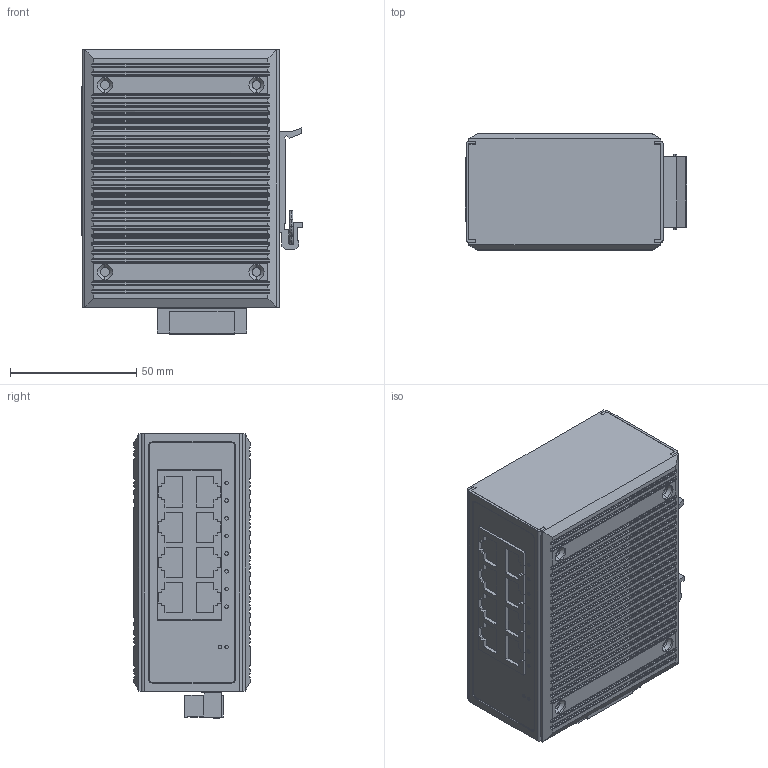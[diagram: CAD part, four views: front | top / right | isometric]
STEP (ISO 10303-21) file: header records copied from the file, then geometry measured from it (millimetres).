
FILE_DESCRIPTION (( 'STEP AP203' ), '1' );
FILE_NAME ('MIES208炵蹈-3D-251122.STEP', '2026-05-19T00:58:01', ( 'pc' ), ( 'Microsoft' ), 'SwSTEP 2.0', 'SolidWorks 2014', '' );
FILE_SCHEMA (( 'CONFIG_CONTROL_DESIGN' ));
Length unit declared in the file: millimetre
Products named in the file (1): MIES208炵蹈-3D-251122
Bounding box: 87.69 x 46 x 112.7 mm (x, y, z)
Volume: 365796.2 mm3; surface area: 40086.2 mm2
Topology: 2 solids, 13 shells, 987 faces, 2590 edges, 1688 vertices
Faces by surface type: plane 606, cylinder 337, torus 24, cone 20
Entity records: 30089 total; most frequent: CARTESIAN_POINT 6214, ORIENTED_EDGE 5180, DIRECTION 4690, EDGE_CURVE 2590, LINE 1834, VECTOR 1834, VERTEX_POINT 1688, AXIS2_PLACEMENT_3D 1428
